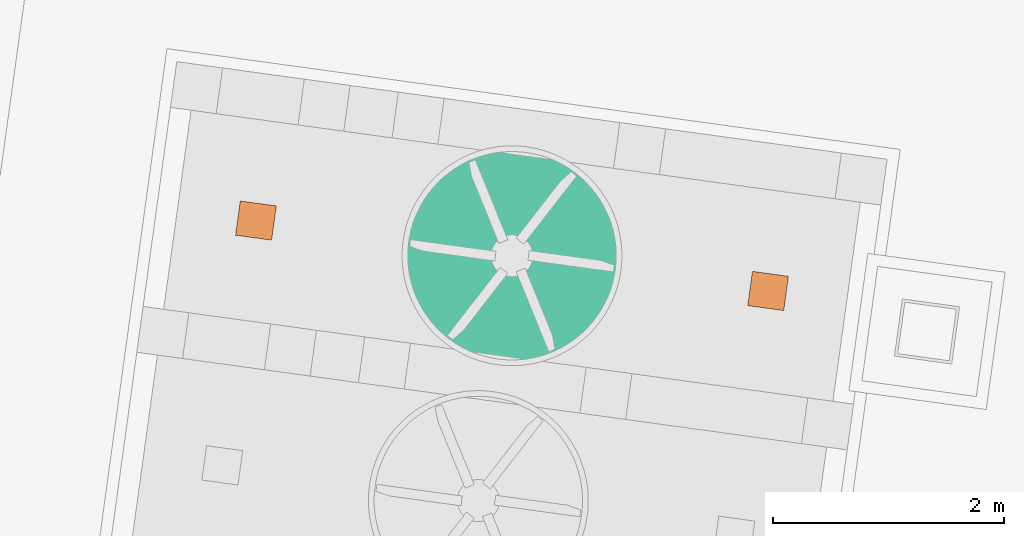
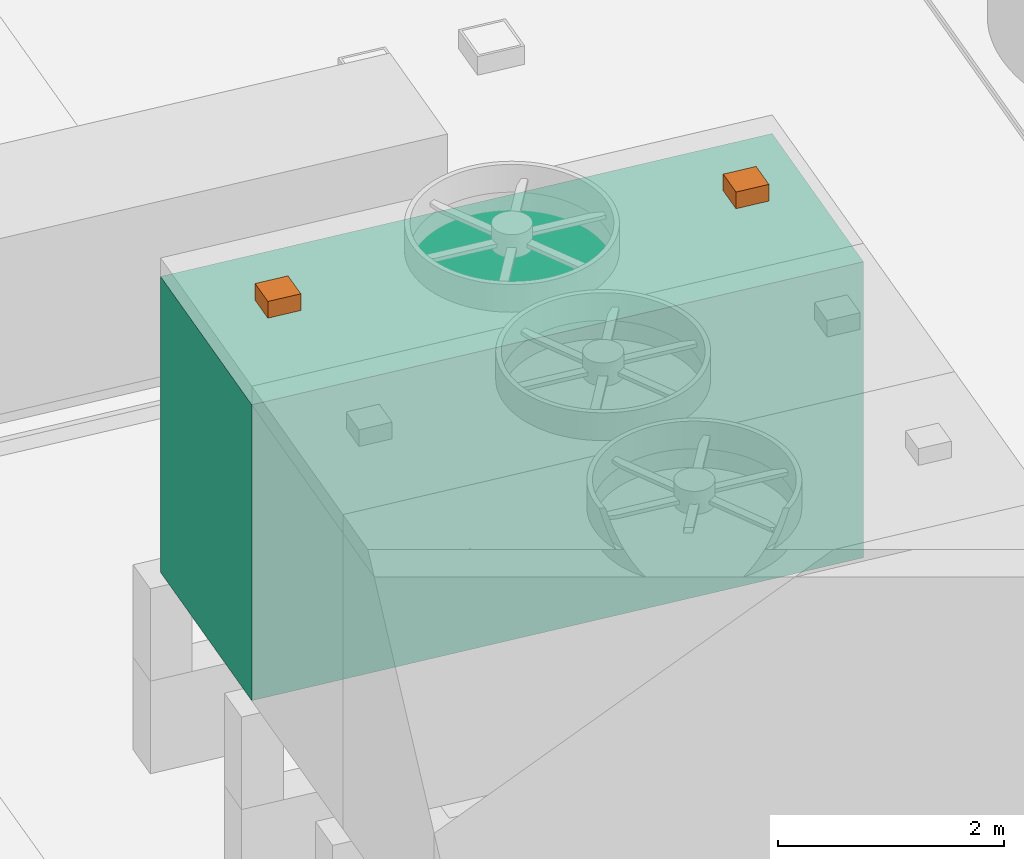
# Not in any storey, part 44 of 75: 2 proxies, 1 cooling tower.
"""IFC4 model written with IfcOpenShell, lengths in metres."""

from ifc_helpers import new_model, si_unit, direction, origin_with_axes, place, context, subcontext, project, spatial, triangles, element, aggregate, save


model = new_model("IFC4")

# Units and contexts
model_context = context("Model", 3, precision=1e-05, world=origin_with_axes(), true_north=direction((0.0, 1.0)))
body_context = subcontext(model_context, "Body", "Model", "MODEL_VIEW")
ifc_project = project(units=[si_unit("AREAUNIT", "SQUARE_METRE"), si_unit("VOLUMEUNIT", "CUBIC_METRE"), si_unit("LENGTHUNIT", "METRE")], contexts=[model_context])

# Site
site_placement = place(None, origin_with_axes())
site = spatial("IfcSite", under=ifc_project, at=site_placement, Name="Parcela industrial Jinhong")

# Cooling tower, proxies
cooling_tower_placement = place(site_placement, origin_with_axes())
cooling_tower = element("IfcCoolingTower", 1, at=cooling_tower_placement, inside=site, Name="Torre de refrigeración WT3001A · Envolvente del cuerpo de la torre", ObjectType="Envolvente de equipo", PredefinedType="USERDEFINED", context=body_context, shape_type="Tessellation", body=[
    triangles([(42.53184, 48.464349, 6.3), (37.027833, 51.381199, 6.3), (36.736357, 49.261142, 6.3), (37.027833, 51.381199, 3.1), (42.53184, 48.464349, 3.1), (36.736357, 49.261142, 3.1), (42.823316, 50.584406, 6.3), (42.823316, 50.584406, 3.1)], [[1, 2, 3], [4, 5, 6], [1, 7, 2], [5, 4, 8], [5, 8, 7], [5, 7, 1], [8, 4, 2], [7, 8, 2], [3, 4, 6], [4, 3, 2], [6, 5, 1], [3, 6, 1]], closed=True),
])
proxy_1_placement = place(cooling_tower_placement, origin_with_axes())
proxy_1 = element("IfcBuildingElementProxy", 2, at=proxy_1_placement, Name="Torre de refrigeración WT3001A · Montaje lateral indicado en planta", context=body_context, shape_type="Tessellation", body=[
    triangles([(37.738661, 50.354816, 6.68), (37.426596, 50.397721, 6.68), (37.697799, 50.057612, 6.68), (37.426596, 50.397721, 6.5), (37.738661, 50.354816, 6.5), (37.697799, 50.057612, 6.5), (37.385735, 50.100516, 6.68), (37.385735, 50.100516, 6.5)], [[1, 2, 3], [4, 5, 6], [2, 7, 3], [6, 8, 4], [7, 4, 8], [4, 7, 2], [8, 6, 3], [7, 8, 3], [5, 1, 6], [1, 3, 6], [5, 4, 2], [5, 2, 1]], closed=True),
])
proxy_2_placement = place(cooling_tower_placement, origin_with_axes())
proxy_2 = element("IfcBuildingElementProxy", 3, at=proxy_2_placement, Name="Torre de refrigeración WT3001A · Montaje lateral indicado en planta", context=body_context, shape_type="Tessellation", body=[
    triangles([(42.173938, 49.745031, 6.68), (41.821012, 49.490731, 6.68), (42.133077, 49.447827, 6.68), (41.821012, 49.490731, 6.5), (42.173938, 49.745031, 6.5), (42.133077, 49.447827, 6.5), (41.861873, 49.787936, 6.68), (41.861873, 49.787936, 6.5)], [[1, 2, 3], [4, 5, 6], [2, 1, 7], [4, 8, 5], [7, 5, 8], [5, 7, 1], [4, 2, 8], [8, 2, 7], [3, 4, 6], [4, 3, 2], [5, 1, 6], [1, 3, 6]], closed=True),
])
aggregate(cooling_tower, [proxy_1, proxy_2])

save(model, "model.ifc")
